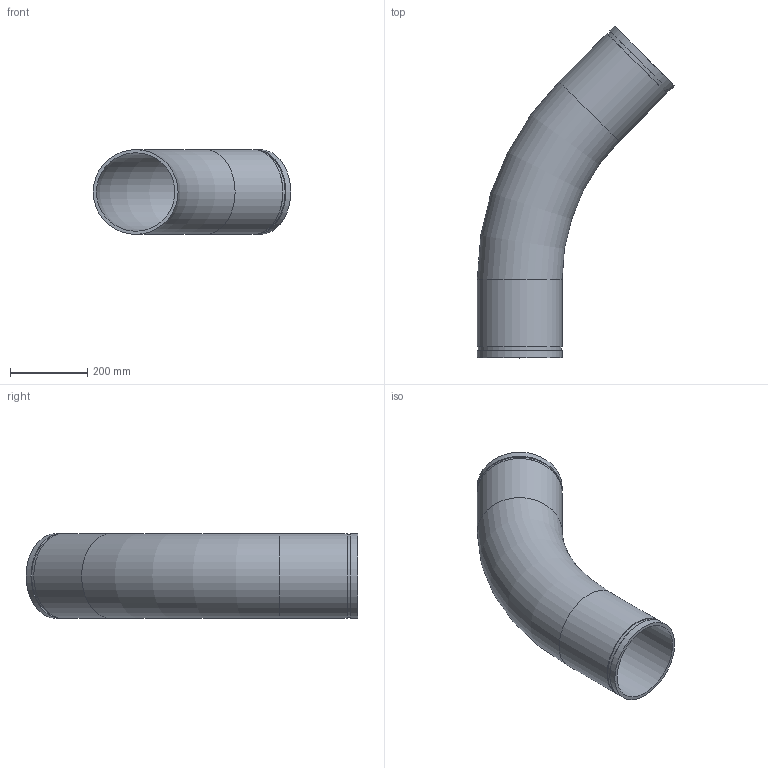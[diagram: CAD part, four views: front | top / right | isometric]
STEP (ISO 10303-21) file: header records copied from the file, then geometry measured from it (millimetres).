
FILE_DESCRIPTION(/* description */ ('VIC ENDSEAL 45 DEG 3D ELBOW No 110-3D','CAx-IF Rec.Pracs.---Representation and Presentation of Product Manufacturing Information (PMI)---4.0---2014-10-13'),/* implementation_level */ '2;1');
FILE_NAME(/* name */ 'C:\Users\kkamble\AppData\Roaming\Autodesk\ApplicationPlugins\Back Up\Victaulic-ES-Long Radius Elbow No 110_3D\Victaulic-ES-Long Radius Elbow No 110_3D_8 (200).stp',/* time_stamp */ '2020-03-13T11:17:12+06:00',/* author */ ('cgray'),/* organization */ ('Victaulic'),/* preprocessor_version */ 'ST-DEVELOPER v17.2',/* originating_system */ 'Autodesk Inventor 2019',/* authorisation */ '');
FILE_SCHEMA (('AP242_MANAGED_MODEL_BASED_3D_ENGINEERING_MIM_LF { 1 0 10303 442 1 1 4 }'));
Length unit declared in the file: inch
Products named in the file (1): No.110-3D-08.0
Bounding box: 510.28 x 857.94 x 219.07 mm (x, y, z)
Volume: 4779695.9 mm3; surface area: 1193611.4 mm2
Topology: 1 solids, 1 shells, 16 faces, 34 edges, 24 vertices
Faces by surface type: cylinder 8, plane 6, torus 2
Full cylindrical faces by diameter (mm): 202.717 x2, 214.401 x2, 219.075 x4
Entity records: 608 total; most frequent: DIRECTION 120, CARTESIAN_POINT 92, ORIENTED_EDGE 68, AXIS2_PLACEMENT_3D 56, EDGE_CURVE 34, CIRCLE 26, VERTEX_POINT 24, EDGE_LOOP 22
